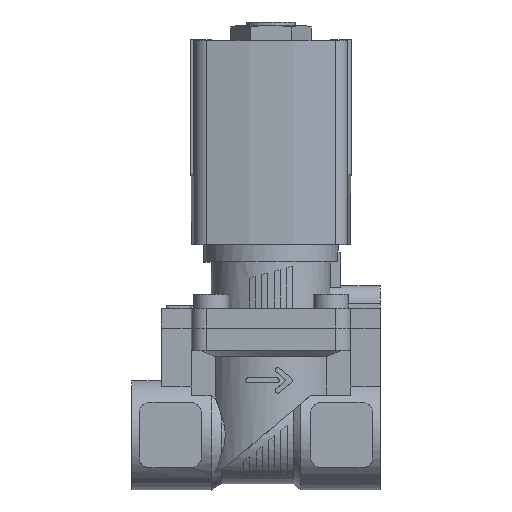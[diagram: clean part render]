
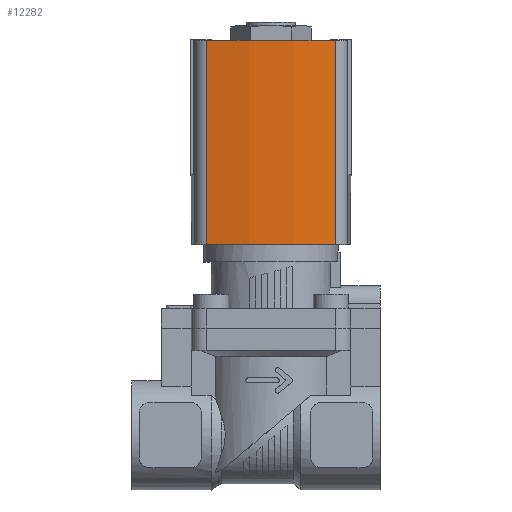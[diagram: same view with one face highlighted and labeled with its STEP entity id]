
A CAD part, top view. The second image highlights one B-rep face of the part: STEP entity #12282.
In plain terms, the highlighted cylindrical face has radius 60 mm (diameter 120 mm), a partial arc.
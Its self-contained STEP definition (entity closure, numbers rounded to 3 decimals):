
#231=CYLINDRICAL_SURFACE('',#13115,60.);
#1196=LINE('',#18792,#2246);
#1197=LINE('',#18796,#2247);
#2246=VECTOR('',#15564,1000.);
#2247=VECTOR('',#15569,1000.);
#4519=ORIENTED_EDGE('',*,*,#6490,.T.);
#4520=ORIENTED_EDGE('',*,*,#6491,.F.);
#4521=ORIENTED_EDGE('',*,*,#5776,.F.);
#4522=ORIENTED_EDGE('',*,*,#6489,.T.);
#5776=EDGE_CURVE('',#7007,#7008,#7722,.T.);
#6489=EDGE_CURVE('',#7007,#7513,#1196,.T.);
#6490=EDGE_CURVE('',#7513,#7514,#7816,.T.);
#6491=EDGE_CURVE('',#7008,#7514,#1197,.T.);
#7007=VERTEX_POINT('',#17446);
#7008=VERTEX_POINT('',#17448);
#7513=VERTEX_POINT('',#18791);
#7514=VERTEX_POINT('',#18795);
#7722=CIRCLE('',#12895,60.);
#7816=CIRCLE('',#13116,60.);
#8226=EDGE_LOOP('',(#4519,#4520,#4521,#4522));
#8791=FACE_BOUND('',#8226,.T.);
#12282=ADVANCED_FACE('',(#8791),#231,.T.);
#12895=AXIS2_PLACEMENT_3D('',#17447,#14505,#14506);
#13115=AXIS2_PLACEMENT_3D('',#18793,#15565,#15566);
#13116=AXIS2_PLACEMENT_3D('',#18794,#15567,#15568);
#14505=DIRECTION('',(0.,1.,0.));
#14506=DIRECTION('',(1.,0.,0.));
#15564=DIRECTION('',(0.,-1.,0.));
#15565=DIRECTION('',(0.,-1.,0.));
#15566=DIRECTION('',(0.,0.,-1.));
#15567=DIRECTION('',(0.,1.,0.));
#15568=DIRECTION('',(1.,0.,0.));
#15569=DIRECTION('',(0.,-1.,0.));
#17446=CARTESIAN_POINT('',(19.078,15.,12.986));
#17447=CARTESIAN_POINT('',(-39.5,15.,0.));
#17448=CARTESIAN_POINT('',(19.078,15.,-12.986));
#18791=CARTESIAN_POINT('',(19.078,-26.,12.986));
#18792=CARTESIAN_POINT('',(19.078,15.,12.986));
#18793=CARTESIAN_POINT('',(-39.5,15.,0.));
#18794=CARTESIAN_POINT('',(-39.5,-26.,0.));
#18795=CARTESIAN_POINT('',(19.078,-26.,-12.986));
#18796=CARTESIAN_POINT('',(19.078,15.,-12.986));
